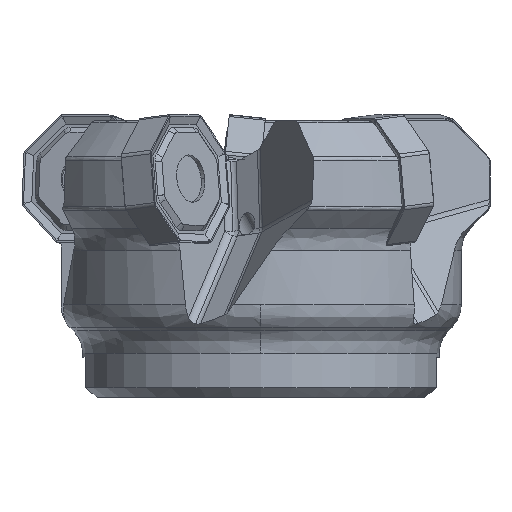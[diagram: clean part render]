
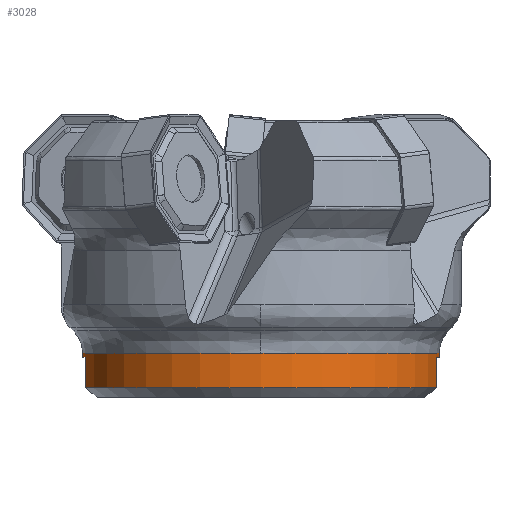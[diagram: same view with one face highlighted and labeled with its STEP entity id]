
A CAD part, front view. The second image highlights one B-rep face of the part: STEP entity #3028.
In plain terms, the highlighted cylindrical face has radius 28 mm (diameter 56 mm), a partial arc.
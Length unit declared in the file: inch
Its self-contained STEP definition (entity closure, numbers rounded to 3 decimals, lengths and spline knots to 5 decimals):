
#121 = VERTEX_POINT ( 'NONE', #1070 ) ;
#258 = VECTOR ( 'NONE', #11853, 39.37008 ) ;
#330 = DIRECTION ( 'NONE',  ( 0., 0., -1. ) ) ;
#358 = CARTESIAN_POINT ( 'NONE',  ( -1.08553, -0.19193, 1.75 ) ) ;
#461 = DIRECTION ( 'NONE',  ( 0., 0., -1. ) ) ;
#631 = CARTESIAN_POINT ( 'NONE',  ( -1.08553, -0.19193, 0.05894 ) ) ;
#768 = CIRCLE ( 'NONE', #3887, 1.10236 ) ;
#784 = EDGE_CURVE ( 'NONE', #16638, #15130, #14642, .T. ) ;
#1065 = ORIENTED_EDGE ( 'NONE', *, *, #3886, .F. ) ;
#1070 = CARTESIAN_POINT ( 'NONE',  ( -1.10236, 0., 0.24792 ) ) ;
#1192 = CARTESIAN_POINT ( 'NONE',  ( 1.08553, -0.19193, 1.75 ) ) ;
#1570 = EDGE_CURVE ( 'NONE', #9114, #16638, #5900, .T. ) ;
#1800 = CARTESIAN_POINT ( 'NONE',  ( 0., 0., 0.24792 ) ) ;
#2047 = CARTESIAN_POINT ( 'NONE',  ( 0., 0., 0.27268 ) ) ;
#2342 = CARTESIAN_POINT ( 'NONE',  ( 1.08553, -0.19193, 0.05894 ) ) ;
#2484 = LINE ( 'NONE', #5771, #7677 ) ;
#2786 = DIRECTION ( 'NONE',  ( 0., 0., 1. ) ) ;
#3028 = ADVANCED_FACE ( 'NONE', ( #14388 ), #17500, .T. ) ;
#3410 = AXIS2_PLACEMENT_3D ( 'NONE', #12343, #3484, #6313 ) ;
#3484 = DIRECTION ( 'NONE',  ( 0., 0., -1. ) ) ;
#3487 = EDGE_CURVE ( 'NONE', #6549, #18867, #2484, .T. ) ;
#3721 = CIRCLE ( 'NONE', #3410, 1.10236 ) ;
#3886 = EDGE_CURVE ( 'NONE', #6549, #15130, #3721, .T. ) ;
#3887 = AXIS2_PLACEMENT_3D ( 'NONE', #1800, #330, #6083 ) ;
#4152 = DIRECTION ( 'NONE',  ( 1., 0., 0. ) ) ;
#4587 = ORIENTED_EDGE ( 'NONE', *, *, #3487, .T. ) ;
#4907 = VERTEX_POINT ( 'NONE', #7689 ) ;
#5087 = ORIENTED_EDGE ( 'NONE', *, *, #17190, .T. ) ;
#5771 = CARTESIAN_POINT ( 'NONE',  ( 1.10236, 0., 1.75 ) ) ;
#5900 = CIRCLE ( 'NONE', #11818, 1.10236 ) ;
#5929 = VECTOR ( 'NONE', #461, 39.37008 ) ;
#5949 = EDGE_LOOP ( 'NONE', ( #19064, #8075, #18622, #19094, #17853, #1065, #4587, #5087, #17289 ) ) ;
#6083 = DIRECTION ( 'NONE',  ( 1., 0., 0. ) ) ;
#6313 = DIRECTION ( 'NONE',  ( 1., 0., 0. ) ) ;
#6549 = VERTEX_POINT ( 'NONE', #16349 ) ;
#7265 = CARTESIAN_POINT ( 'NONE',  ( 0., 0., 0.27268 ) ) ;
#7677 = VECTOR ( 'NONE', #11705, 39.37008 ) ;
#7689 = CARTESIAN_POINT ( 'NONE',  ( -1.08553, -0.19193, 0.24792 ) ) ;
#7870 = LINE ( 'NONE', #358, #5929 ) ;
#8075 = ORIENTED_EDGE ( 'NONE', *, *, #9015, .F. ) ;
#8274 = DIRECTION ( 'NONE',  ( 1., 0., 0. ) ) ;
#8631 = VERTEX_POINT ( 'NONE', #11692 ) ;
#8654 = CARTESIAN_POINT ( 'NONE',  ( 1.08553, -0.19193, 0.24792 ) ) ;
#9015 = EDGE_CURVE ( 'NONE', #4907, #121, #768, .T. ) ;
#9114 = VERTEX_POINT ( 'NONE', #631 ) ;
#10465 = DIRECTION ( 'NONE',  ( 0., 0., -1. ) ) ;
#10872 = CARTESIAN_POINT ( 'NONE',  ( -1.10236, 0., 1.75 ) ) ;
#11137 = EDGE_CURVE ( 'NONE', #8631, #17787, #14658, .T. ) ;
#11225 = CARTESIAN_POINT ( 'NONE',  ( -1.10236, 0., 0.27268 ) ) ;
#11692 = CARTESIAN_POINT ( 'NONE',  ( 0., -1.10236, 0.27268 ) ) ;
#11705 = DIRECTION ( 'NONE',  ( 0., 0., 1. ) ) ;
#11754 = CARTESIAN_POINT ( 'NONE',  ( 0., 0., 0.05894 ) ) ;
#11818 = AXIS2_PLACEMENT_3D ( 'NONE', #11754, #14689, #16236 ) ;
#11853 = DIRECTION ( 'NONE',  ( 0., 0., 1. ) ) ;
#12229 = LINE ( 'NONE', #10872, #258 ) ;
#12343 = CARTESIAN_POINT ( 'NONE',  ( 0., 0., 0.24792 ) ) ;
#12490 = CARTESIAN_POINT ( 'NONE',  ( 1.10236, 0., 0.27268 ) ) ;
#12510 = EDGE_CURVE ( 'NONE', #4907, #9114, #7870, .T. ) ;
#13586 = VECTOR ( 'NONE', #19044, 39.37008 ) ;
#14072 = EDGE_CURVE ( 'NONE', #121, #17787, #12229, .T. ) ;
#14388 = FACE_OUTER_BOUND ( 'NONE', #5949, .T. ) ;
#14420 = CIRCLE ( 'NONE', #15672, 1.10236 ) ;
#14642 = LINE ( 'NONE', #1192, #13586 ) ;
#14658 = CIRCLE ( 'NONE', #16517, 1.10236 ) ;
#14689 = DIRECTION ( 'NONE',  ( 0., 0., 1. ) ) ;
#15130 = VERTEX_POINT ( 'NONE', #8654 ) ;
#15672 = AXIS2_PLACEMENT_3D ( 'NONE', #7265, #10465, #4152 ) ;
#16236 = DIRECTION ( 'NONE',  ( 1., 0., 0. ) ) ;
#16349 = CARTESIAN_POINT ( 'NONE',  ( 1.10236, 0., 0.24792 ) ) ;
#16517 = AXIS2_PLACEMENT_3D ( 'NONE', #2047, #17055, #8274 ) ;
#16638 = VERTEX_POINT ( 'NONE', #2342 ) ;
#17055 = DIRECTION ( 'NONE',  ( 0., 0., -1. ) ) ;
#17190 = EDGE_CURVE ( 'NONE', #18867, #8631, #14420, .T. ) ;
#17289 = ORIENTED_EDGE ( 'NONE', *, *, #11137, .T. ) ;
#17410 = DIRECTION ( 'NONE',  ( 1., 0., 0. ) ) ;
#17500 = CYLINDRICAL_SURFACE ( 'NONE', #18915, 1.10236 ) ;
#17786 = CARTESIAN_POINT ( 'NONE',  ( 0., 0., 1.75 ) ) ;
#17787 = VERTEX_POINT ( 'NONE', #11225 ) ;
#17853 = ORIENTED_EDGE ( 'NONE', *, *, #784, .T. ) ;
#18622 = ORIENTED_EDGE ( 'NONE', *, *, #12510, .T. ) ;
#18867 = VERTEX_POINT ( 'NONE', #12490 ) ;
#18915 = AXIS2_PLACEMENT_3D ( 'NONE', #17786, #2786, #17410 ) ;
#19044 = DIRECTION ( 'NONE',  ( 0., 0., 1. ) ) ;
#19064 = ORIENTED_EDGE ( 'NONE', *, *, #14072, .F. ) ;
#19094 = ORIENTED_EDGE ( 'NONE', *, *, #1570, .T. ) ;
